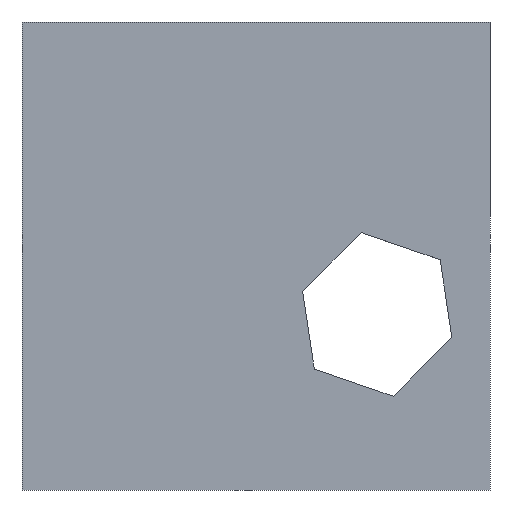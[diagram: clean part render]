
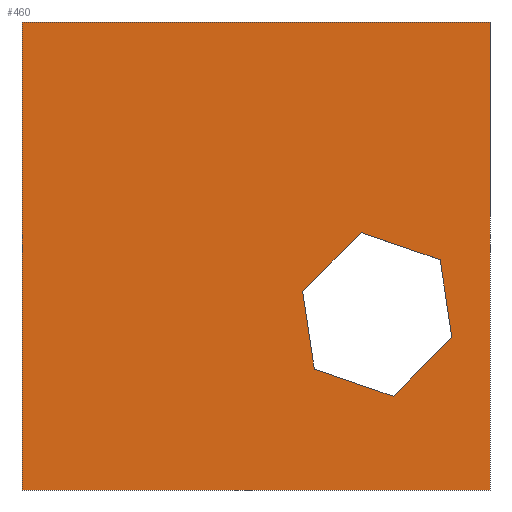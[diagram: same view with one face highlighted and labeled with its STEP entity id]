
A CAD part, front view. The second image highlights one B-rep face of the part: STEP entity #460.
In plain terms, the highlighted planar face has unit normal (0, -1, 0).
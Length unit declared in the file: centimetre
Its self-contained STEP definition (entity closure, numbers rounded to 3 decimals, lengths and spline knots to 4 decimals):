
#2 = VECTOR ( 'NONE', #541, 100. ) ;
#9 = FACE_BOUND ( 'NONE', #629, .T. ) ;
#12 = ORIENTED_EDGE ( 'NONE', *, *, #204, .F. ) ;
#19 = EDGE_CURVE ( 'NONE', #588, #271, #443, .T. ) ;
#27 = VECTOR ( 'NONE', #269, 100. ) ;
#35 = VERTEX_POINT ( 'NONE', #589 ) ;
#38 = DIRECTION ( 'NONE',  ( 0.707, 0., 0.707 ) ) ;
#41 = CARTESIAN_POINT ( 'NONE',  ( 0., 0., 0. ) ) ;
#51 = PLANE ( 'NONE',  #161 ) ;
#56 = CARTESIAN_POINT ( 'NONE',  ( 1000., 0., 0. ) ) ;
#64 = ORIENTED_EDGE ( 'NONE', *, *, #533, .F. ) ;
#78 = DIRECTION ( 'NONE',  ( 0., 0., -1. ) ) ;
#107 = DIRECTION ( 'NONE',  ( 0., 0., 1. ) ) ;
#108 = LINE ( 'NONE', #308, #428 ) ;
#113 = EDGE_CURVE ( 'NONE', #35, #312, #284, .T. ) ;
#123 = ORIENTED_EDGE ( 'NONE', *, *, #596, .F. ) ;
#141 = CARTESIAN_POINT ( 'NONE',  ( 893.4614, 0., 491.9114 ) ) ;
#149 = CARTESIAN_POINT ( 'NONE',  ( 792.9188, 0., 200.3828 ) ) ;
#151 = ORIENTED_EDGE ( 'NONE', *, *, #370, .T. ) ;
#155 = VECTOR ( 'NONE', #630, 100. ) ;
#161 = AXIS2_PLACEMENT_3D ( 'NONE', #203, #255, #107 ) ;
#171 = ORIENTED_EDGE ( 'NONE', *, *, #550, .T. ) ;
#177 = CARTESIAN_POINT ( 'NONE',  ( 624.6046, 0., 258.4311 ) ) ;
#178 = EDGE_CURVE ( 'NONE', #272, #634, #324, .T. ) ;
#179 = DIRECTION ( 'NONE',  ( 0.945, 0., -0.326 ) ) ;
#181 = CARTESIAN_POINT ( 'NONE',  ( 918.503, 0., 325.967 ) ) ;
#182 = LINE ( 'NONE', #384, #200 ) ;
#189 = CARTESIAN_POINT ( 'NONE',  ( 624.6046, 0., 258.4311 ) ) ;
#200 = VECTOR ( 'NONE', #479, 100. ) ;
#203 = CARTESIAN_POINT ( 'NONE',  ( 0., 0., 1000. ) ) ;
#204 = EDGE_CURVE ( 'NONE', #232, #280, #314, .T. ) ;
#232 = VERTEX_POINT ( 'NONE', #612 ) ;
#233 = CARTESIAN_POINT ( 'NONE',  ( 0., 0., 1000. ) ) ;
#246 = LINE ( 'NONE', #41, #633 ) ;
#255 = DIRECTION ( 'NONE',  ( 0., 1., 0. ) ) ;
#269 = DIRECTION ( 'NONE',  ( -0.149, 0., 0.989 ) ) ;
#271 = VERTEX_POINT ( 'NONE', #149 ) ;
#272 = VERTEX_POINT ( 'NONE', #586 ) ;
#273 = EDGE_CURVE ( 'NONE', #280, #272, #590, .T. ) ;
#280 = VERTEX_POINT ( 'NONE', #348 ) ;
#284 = LINE ( 'NONE', #233, #155 ) ;
#285 = CARTESIAN_POINT ( 'NONE',  ( 0., 0., 0. ) ) ;
#298 = EDGE_CURVE ( 'NONE', #634, #588, #388, .T. ) ;
#308 = CARTESIAN_POINT ( 'NONE',  ( 792.9188, 0., 200.3828 ) ) ;
#309 = VECTOR ( 'NONE', #616, 100. ) ;
#312 = VERTEX_POINT ( 'NONE', #397 ) ;
#314 = LINE ( 'NONE', #181, #27 ) ;
#324 = LINE ( 'NONE', #628, #309 ) ;
#332 = ORIENTED_EDGE ( 'NONE', *, *, #19, .F. ) ;
#337 = VERTEX_POINT ( 'NONE', #285 ) ;
#342 = ORIENTED_EDGE ( 'NONE', *, *, #113, .F. ) ;
#348 = CARTESIAN_POINT ( 'NONE',  ( 893.4614, 0., 491.9114 ) ) ;
#353 = DIRECTION ( 'NONE',  ( 1., 0., 0. ) ) ;
#357 = FACE_OUTER_BOUND ( 'NONE', #438, .T. ) ;
#364 = VECTOR ( 'NONE', #636, 100. ) ;
#370 = EDGE_CURVE ( 'NONE', #337, #509, #246, .T. ) ;
#375 = CARTESIAN_POINT ( 'NONE',  ( 1000., 0., 1000. ) ) ;
#379 = LINE ( 'NONE', #375, #609 ) ;
#384 = CARTESIAN_POINT ( 'NONE',  ( 0., 0., 1000. ) ) ;
#388 = LINE ( 'NONE', #450, #364 ) ;
#397 = CARTESIAN_POINT ( 'NONE',  ( 1000., 0., 1000. ) ) ;
#420 = ORIENTED_EDGE ( 'NONE', *, *, #178, .F. ) ;
#428 = VECTOR ( 'NONE', #38, 100. ) ;
#438 = EDGE_LOOP ( 'NONE', ( #151, #123, #342, #171 ) ) ;
#443 = LINE ( 'NONE', #189, #563 ) ;
#450 = CARTESIAN_POINT ( 'NONE',  ( 599.563, 0., 424.3754 ) ) ;
#460 = ADVANCED_FACE ( 'NONE', ( #9, #357 ), #51, .F. ) ;
#479 = DIRECTION ( 'NONE',  ( 0., 0., -1. ) ) ;
#490 = ORIENTED_EDGE ( 'NONE', *, *, #273, .F. ) ;
#509 = VERTEX_POINT ( 'NONE', #56 ) ;
#533 = EDGE_CURVE ( 'NONE', #271, #232, #108, .T. ) ;
#541 = DIRECTION ( 'NONE',  ( -0.945, 0., 0.326 ) ) ;
#550 = EDGE_CURVE ( 'NONE', #35, #337, #182, .T. ) ;
#563 = VECTOR ( 'NONE', #179, 100. ) ;
#572 = CARTESIAN_POINT ( 'NONE',  ( 599.563, 0., 424.3754 ) ) ;
#584 = ORIENTED_EDGE ( 'NONE', *, *, #298, .F. ) ;
#586 = CARTESIAN_POINT ( 'NONE',  ( 725.1472, 0., 549.9597 ) ) ;
#588 = VERTEX_POINT ( 'NONE', #177 ) ;
#589 = CARTESIAN_POINT ( 'NONE',  ( 0., 0., 1000. ) ) ;
#590 = LINE ( 'NONE', #141, #2 ) ;
#596 = EDGE_CURVE ( 'NONE', #312, #509, #379, .T. ) ;
#609 = VECTOR ( 'NONE', #78, 100. ) ;
#612 = CARTESIAN_POINT ( 'NONE',  ( 918.503, 0., 325.967 ) ) ;
#616 = DIRECTION ( 'NONE',  ( -0.707, 0., -0.707 ) ) ;
#628 = CARTESIAN_POINT ( 'NONE',  ( 725.1472, 0., 549.9597 ) ) ;
#629 = EDGE_LOOP ( 'NONE', ( #490, #12, #64, #332, #584, #420 ) ) ;
#630 = DIRECTION ( 'NONE',  ( 1., 0., 0. ) ) ;
#633 = VECTOR ( 'NONE', #353, 100. ) ;
#634 = VERTEX_POINT ( 'NONE', #572 ) ;
#636 = DIRECTION ( 'NONE',  ( 0.149, 0., -0.989 ) ) ;
